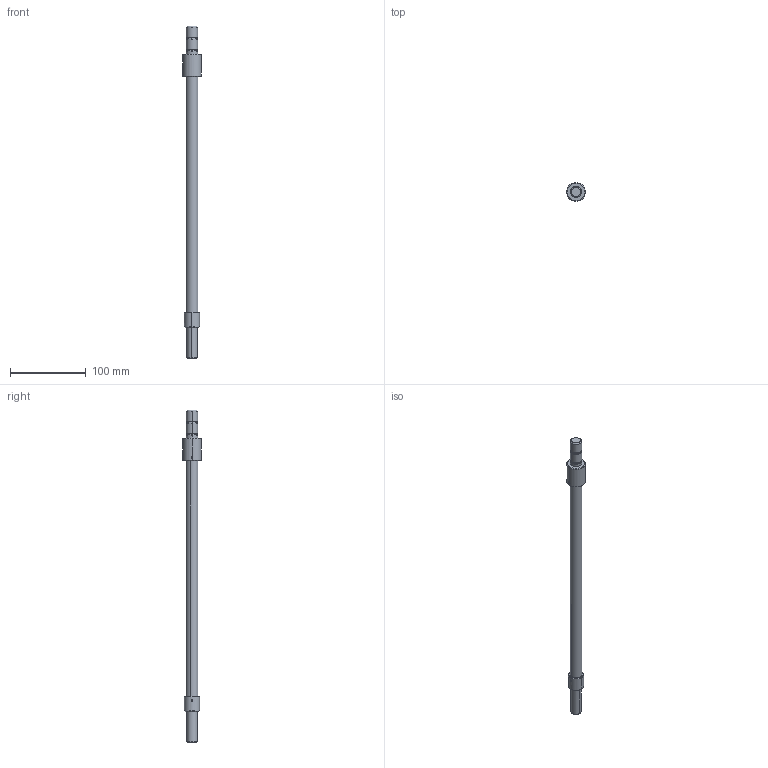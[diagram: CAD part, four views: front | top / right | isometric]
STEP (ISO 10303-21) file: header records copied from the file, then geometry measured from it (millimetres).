
FILE_DESCRIPTION (( 'STEP AP214' ), '1' );
FILE_NAME ('MSG8-1100S_A06011A0000101A.STEP', '2025-02-17T07:07:34', ( '' ), ( '' ), 'SwSTEP 2.0', 'SolidWorks 2023', '' );
FILE_SCHEMA (( 'AUTOMOTIVE_DESIGN' ));
Length unit declared in the file: millimetre
Products named in the file (1): MSG8-1100S_A06011A0000101A
Bounding box: 25 x 25 x 437 mm (x, y, z)
Volume: 93422.8 mm3; surface area: 23461.3 mm2
Topology: 1 solids, 1 shells, 82 faces, 197 edges, 122 vertices
Faces by surface type: cone 30, plane 23, cylinder 19, torus 8, sphere 2
Entity records: 2531 total; most frequent: CARTESIAN_POINT 604, DIRECTION 418, ORIENTED_EDGE 384, EDGE_CURVE 192, AXIS2_PLACEMENT_3D 165, VERTEX_POINT 119, EDGE_LOOP 89, VECTOR 88
